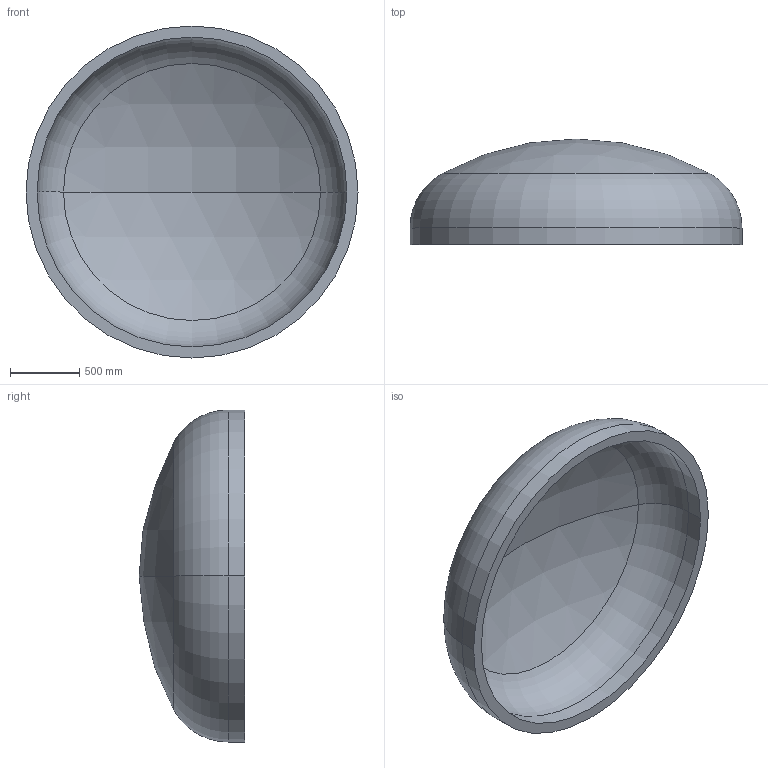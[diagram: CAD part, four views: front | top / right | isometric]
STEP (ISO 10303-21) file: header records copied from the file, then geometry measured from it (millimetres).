
FILE_DESCRIPTION (( 'STEP AP203' ), '1' );
FILE_NAME ('DIN 28013 Korbbogenform_-_Boden DIN 28013 - 2400 x 120 - I - s=80.step', '2016-07-01T15:35:15', ( '' ), ( '' ), 'SwSTEP 2.0', 'SolidWorks 2013', '' );
FILE_SCHEMA (( 'CONFIG_CONTROL_DESIGN' ));
Length unit declared in the file: millimetre
Products named in the file (1): DIN 28013 Korbbogenform_-_Boden DIN 28013 - 2400 x 120 - I - s=80
Bounding box: 2400 x 763.53 x 2400 mm (x, y, z)
Volume: 550014238.7 mm3; surface area: 14346835.5 mm2
Topology: 1 solids, 1 shells, 13 faces, 24 edges, 14 vertices
Faces by surface type: torus 4, cylinder 4, sphere 4, plane 1
Entity records: 407 total; most frequent: DIRECTION 72, CARTESIAN_POINT 52, ORIENTED_EDGE 48, AXIS2_PLACEMENT_3D 34, EDGE_CURVE 24, CIRCLE 20, VERTEX_POINT 14, EDGE_LOOP 14
